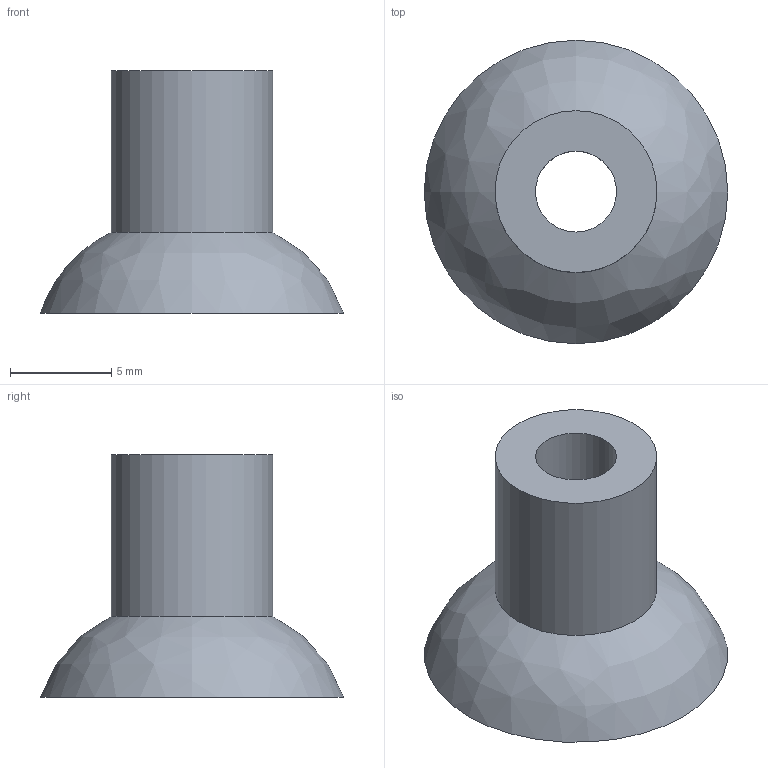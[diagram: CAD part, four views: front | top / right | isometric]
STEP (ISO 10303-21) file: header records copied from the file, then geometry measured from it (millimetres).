
FILE_DESCRIPTION(('STEP AP214'),'1');
FILE_NAME('CA.08.03.005.stp','2019-04-18T09:06:41',(' '),(' '),'Spatial InterOp 3D',' ',' ');
FILE_SCHEMA(('AUTOMOTIVE_DESIGN { 1 0 10303 214 1 1 1 1 }'));
Length unit declared in the file: millimetre
Products named in the file (1): CA.08.03.005
Bounding box: 15 x 15 x 12 mm (x, y, z)
Volume: 442.6 mm3; surface area: 769.9 mm2
Topology: 1 solids, 1 shells, 7 faces, 11 edges, 7 vertices
Faces by surface type: plane 3, cylinder 2, bspline 1, cone 1
Full cylindrical faces by diameter (mm): 4 x1, 8 x1
Entity records: 243 total; most frequent: CARTESIAN_POINT 49, DIRECTION 28, AXIS2_PLACEMENT_3D 14, EDGE_LOOP 14, ORIENTED_EDGE 14, FACE_OUTER_BOUND 10, STYLED_ITEM 7, PRESENTATION_STYLE_ASSIGNMENT 7
